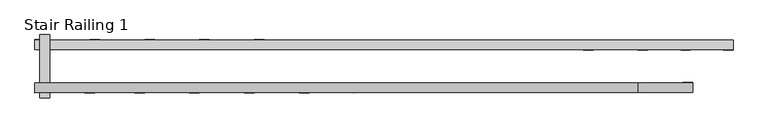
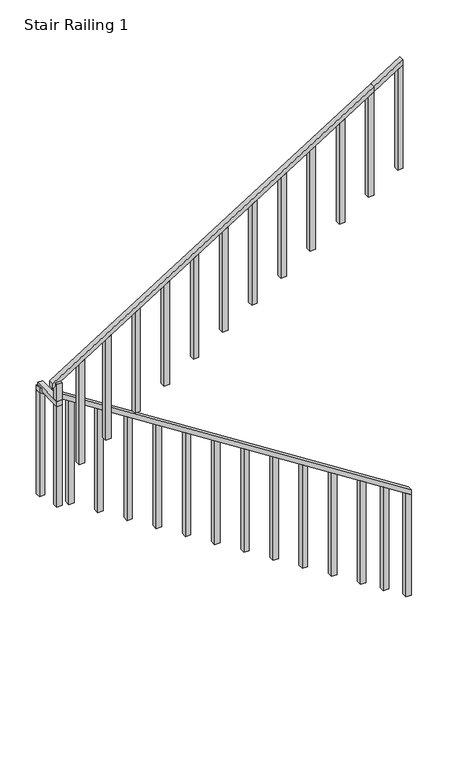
"""IFC4 building model written with IfcOpenShell, lengths in millimetres: railing geometry, Stair Railing 1."""

import ifcopenshell
import ifcopenshell.guid

model = None  # the IFC model being written
_history = None  # IfcOwnerHistory: only IFC2X3 demands one
_inside = {}  # id of a spatial element -> (the spatial element, [elements in it])
_under = {}  # id of a project, library or spatial element -> (it, [spatial elements below it])
_declared = {}  # id of a project -> (the project, [libraries it declares])
_typed = {}  # id of a type object -> (the type object, [elements of that type])
_made_of = {}  # id of a material, layer set ... -> (it, [elements and type objects made of it])


def new_model(schema):
    """Start an empty IFC model of exactly this schema.

    Asked for "IFC4X3", IfcOpenShell would pick the latest addendum, in which some entities
    have other attributes; the version numbers below select the first issue.
    IFC2X3 requires an IfcOwnerHistory on every rooted entity: one is made here for all.
    """
    global model, _history
    if schema == "IFC4X3":
        model = ifcopenshell.file(schema_version=(4, 3, 0, 0))
    else:
        model = ifcopenshell.file(schema=schema)
    _inside.clear()
    _under.clear()
    _declared.clear()
    _typed.clear()
    _made_of.clear()
    _history = None
    if model.schema == "IFC2X3":
        org = make("IfcOrganization", Name="unknown")
        user = make(
            "IfcPersonAndOrganization",
            ThePerson=make("IfcPerson", FamilyName="unknown"),
            TheOrganization=org,
        )
        app = make(
            "IfcApplication",
            ApplicationDeveloper=org,
            Version="unknown",
            ApplicationFullName="unknown",
            ApplicationIdentifier="unknown",
        )
        _history = make(
            "IfcOwnerHistory",
            OwningUser=user,
            OwningApplication=app,
            ChangeAction="ADDED",
            CreationDate=0,
        )
    return model


def make(cls, **values):
    """One entity of the class cls with the attributes given. An attribute that is None is left unset."""
    return model.create_entity(
        cls, **{name: value for name, value in values.items() if value is not None}
    )


def rooted(cls, **values):
    """An entity with a GlobalId (a new one), such as an element, a storey or a relation."""
    return make(cls, GlobalId=ifcopenshell.guid.new(), OwnerHistory=_history, **values)


def si_unit(unit_type, name, prefix=None):
    """IfcSIUnit, for example si_unit("LENGTHUNIT", "METRE", prefix="MILLI")."""
    return make("IfcSIUnit", UnitType=unit_type, Prefix=prefix, Name=name)


def assignment(units):
    """IfcUnitAssignment: the units of a project."""
    return None if units is None else make("IfcUnitAssignment", Units=units)


def point(xyz):
    """IfcCartesianPoint."""
    return None if xyz is None else make("IfcCartesianPoint", Coordinates=xyz)


def direction(xyz):
    """IfcDirection."""
    return None if xyz is None else make("IfcDirection", DirectionRatios=xyz)


def frame(location, z_axis=None, x_axis=None):
    """IfcAxis2Placement3D, a coordinate frame: its origin and axes. An axis left out is left unset."""
    return make(
        "IfcAxis2Placement3D",
        Location=point(location),
        Axis=direction(z_axis),
        RefDirection=direction(x_axis),
    )


def origin():
    """The frame at (0, 0, 0) with its axes left unset."""
    return frame((0.0, 0.0, 0.0))


def place(relative_to, where):
    """IfcLocalPlacement: puts the frame where relative to a parent placement (None: the world)."""
    return make(
        "IfcLocalPlacement", PlacementRelTo=relative_to, RelativePlacement=where
    )


def context(
    kind, dimensions, precision=None, world=None, true_north=None, identifier=None
):
    """IfcGeometricRepresentationContext, for example the 3D "Model" context."""
    return make(
        "IfcGeometricRepresentationContext",
        ContextIdentifier=identifier,
        ContextType=kind,
        CoordinateSpaceDimension=dimensions,
        Precision=precision,
        WorldCoordinateSystem=world,
        TrueNorth=true_north,
    )


def project(units=None, contexts=None):
    """IfcProject with its units and contexts."""
    return rooted(
        "IfcProject",
        Name="project",
        RepresentationContexts=contexts,
        UnitsInContext=assignment(units),
    )


def spatial(cls, under=None, at=None, **own):
    """A site, building, storey or space (cls), placed at a placement, below another one or the project."""
    s = rooted(cls, ObjectPlacement=at, **own)
    if under is not None:
        _under.setdefault(under.id(), (under, []))[1].append(s)
    return s


def polyline(points):
    """IfcPolyline through the points."""
    return make("IfcPolyline", Points=[point(p) for p in points])


def outline(outer, holes=None, kind="AREA"):
    """IfcArbitraryClosedProfileDef: a profile drawn as a closed curve; with holes, ...WithVoids."""
    if holes is None:
        return make("IfcArbitraryClosedProfileDef", ProfileType=kind, OuterCurve=outer)
    return make(
        "IfcArbitraryProfileDefWithVoids",
        ProfileType=kind,
        OuterCurve=outer,
        InnerCurves=holes,
    )


def extrude(swept, where, along, depth):
    """IfcExtrudedAreaSolid: the profile swept, set in the frame where, extruded along a direction by depth."""
    return make(
        "IfcExtrudedAreaSolid",
        SweptArea=swept,
        Position=where,
        ExtrudedDirection=direction(along),
        Depth=depth,
    )


def shape(context_of_items, identifier, shape_type, items):
    """IfcShapeRepresentation: the items that make up one representation, for example the "Body"."""
    return make(
        "IfcShapeRepresentation",
        ContextOfItems=context_of_items,
        RepresentationIdentifier=identifier,
        RepresentationType=shape_type,
        Items=items,
    )


def source(mapping_origin, context_of_items, identifier, shape_type, items):
    """IfcRepresentationMap: a shape defined once, which mapped items show again and again."""
    return make(
        "IfcRepresentationMap",
        MappingOrigin=mapping_origin,
        MappedRepresentation=shape(context_of_items, identifier, shape_type, items),
    )


def transform(
    local_origin,
    x_axis=None,
    y_axis=None,
    z_axis=None,
    scale=None,
    scale2=None,
    scale3=None,
    uniform=True,
):
    """IfcCartesianTransformationOperator3D, or its non-uniform kind. x_axis, y_axis, z_axis: its Axis1, 2, 3."""
    if uniform:
        return make(
            "IfcCartesianTransformationOperator3D",
            Axis1=direction(x_axis),
            Axis2=direction(y_axis),
            LocalOrigin=point(local_origin),
            Scale=scale,
            Axis3=direction(z_axis),
        )
    return make(
        "IfcCartesianTransformationOperator3DnonUniform",
        Axis1=direction(x_axis),
        Axis2=direction(y_axis),
        LocalOrigin=point(local_origin),
        Scale=scale,
        Axis3=direction(z_axis),
        Scale2=scale2,
        Scale3=scale3,
    )


def mapped(mapping_source, mapping_target):
    """IfcMappedItem: shows the shape of a source again, moved by a transform."""
    return make(
        "IfcMappedItem", MappingSource=mapping_source, MappingTarget=mapping_target
    )


def made_of(thing, what):
    """Note that an element or type object is made of a material, layer set ...; save() writes the relation."""
    if what is not None:
        _made_of.setdefault(what.id(), (what, []))[1].append(thing)
    return thing


def element(
    cls,
    number,
    at=None,
    inside=None,
    cuts=None,
    type_object=None,
    material=None,
    context=None,
    identifier="Body",
    shape_type=None,
    held_by="IfcProductDefinitionShape",
    body=None,
    shapes=None,
    **own,
):
    """One element of the class cls, such as IfcWall. Its Tag is "e" and its number.

    at: its placement. inside: the storey or other place that contains it. cuts: it is an
    opening in that element (IfcRelVoidsElement). A single representation is given by context,
    identifier, shape_type and body (its items); several are given by shapes. held_by: the class
    of the entity that holds the representations. save() writes the other relations.
    """
    e = rooted(cls, Tag="e%d" % number, ObjectPlacement=at, **own)
    if body is not None:
        shapes = [shape(context, identifier, shape_type, body)]
    if shapes is not None:
        e.Representation = make(held_by, Representations=shapes)
    if inside is not None:
        _inside.setdefault(inside.id(), (inside, []))[1].append(e)
    if cuts is not None:
        rooted(
            "IfcRelVoidsElement", RelatingBuildingElement=cuts, RelatedOpeningElement=e
        )
    if type_object is not None:
        _typed.setdefault(type_object.id(), (type_object, []))[1].append(e)
    return made_of(e, material)


def aggregate(whole, parts):
    """IfcRelAggregates: a whole, such as a stair, and the parts it consists of."""
    return rooted("IfcRelAggregates", RelatingObject=whole, RelatedObjects=parts)


def save(model, path):
    """Write the relations noted so far, then the file.

    IfcRelAggregates (storeys below a building ...), IfcRelContainedInSpatialStructure (elements
    in a storey), IfcRelDefinesByType, IfcRelAssociatesMaterial and IfcRelDeclares: one each for
    every whole, place, type object, material and project.
    """
    for whole, parts in _under.values():
        aggregate(whole, parts)
    for where, things in _inside.values():
        rooted(
            "IfcRelContainedInSpatialStructure",
            RelatedElements=things,
            RelatingStructure=where,
        )
    for kind, things in _typed.values():
        rooted("IfcRelDefinesByType", RelatedObjects=things, RelatingType=kind)
    for what, things in _made_of.values():
        rooted("IfcRelAssociatesMaterial", RelatedObjects=things, RelatingMaterial=what)
    for by, libraries in _declared.values():
        rooted("IfcRelDeclares", RelatingContext=by, RelatedDefinitions=libraries)
    model.write(path)


def stair_railing_1_86ab4dc6(model_context):
    return source(origin(), model_context, "Body", "SweptSolid", [
        extrude(outline(polyline([(13727.2888889, -65612.3987232), (13676.4888889, -65612.3987232), (11401.7777778, -62053.9245409), (11452.5777778, -62053.9245409), (13727.2888889, -65612.3987232)])), frame((0.0, 32657.381749, 0.0), z_axis=(0.0, 1.0, 0.0), x_axis=(0.0, 0.0, 1.0)), (0.0, 0.0, 1.0), 50.8),
        extrude(outline(polyline([(11434.2510566, -62104.7245409), (10385.7777778, -62104.7245409), (10385.7777778, -62053.9245409), (11401.7777778, -62053.9245409), (11434.2510566, -62104.7245409)])), frame((0.0, 32657.381749, 0.0), z_axis=(0.0, 1.0, 0.0), x_axis=(0.0, 0.0, 1.0)), (0.0, 0.0, 1.0), 50.8),
        extrude(outline(polyline([(11573.0532872, -62321.8616321), (10524.5800084, -62321.8616321), (10524.5800084, -62271.0616321), (11540.5800084, -62271.0616321), (11573.0532872, -62321.8616321)])), frame((0.0, 32657.381749, 0.0), z_axis=(0.0, 1.0, 0.0), x_axis=(0.0, 0.0, 1.0)), (0.0, 0.0, 1.0), 50.8),
        extrude(outline(polyline([(11711.8555178, -62538.9987232), (10663.3822389, -62538.9987232), (10663.3822389, -62488.1987232), (11679.3822389, -62488.1987232), (11711.8555178, -62538.9987232)])), frame((0.0, 32657.381749, 0.0), z_axis=(0.0, 1.0, 0.0), x_axis=(0.0, 0.0, 1.0)), (0.0, 0.0, 1.0), 50.8),
        extrude(outline(polyline([(11890.4585515, -62818.3987232), (10841.9852727, -62818.3987232), (10841.9852727, -62767.5987232), (11857.9852727, -62767.5987232), (11890.4585515, -62818.3987232)])), frame((0.0, 32657.381749, 0.0), z_axis=(0.0, 1.0, 0.0), x_axis=(0.0, 0.0, 1.0)), (0.0, 0.0, 1.0), 50.8),
        extrude(outline(polyline([(12069.0615853, -63097.7987232), (11020.5883064, -63097.7987232), (11020.5883064, -63046.9987232), (12036.5883064, -63046.9987232), (12069.0615853, -63097.7987232)])), frame((0.0, 32657.381749, 0.0), z_axis=(0.0, 1.0, 0.0), x_axis=(0.0, 0.0, 1.0)), (0.0, 0.0, 1.0), 50.8),
        extrude(outline(polyline([(12247.664619, -63377.1987232), (11199.1913401, -63377.1987232), (11199.1913401, -63326.3987232), (12215.1913401, -63326.3987232), (12247.664619, -63377.1987232)])), frame((0.0, 32657.381749, 0.0), z_axis=(0.0, 1.0, 0.0), x_axis=(0.0, 0.0, 1.0)), (0.0, 0.0, 1.0), 50.8),
        extrude(outline(polyline([(12426.2676527, -63656.5987232), (11377.7943739, -63656.5987232), (11377.7943739, -63605.7987232), (12393.7943739, -63605.7987232), (12426.2676527, -63656.5987232)])), frame((0.0, 32657.381749, 0.0), z_axis=(0.0, 1.0, 0.0), x_axis=(0.0, 0.0, 1.0)), (0.0, 0.0, 1.0), 50.8),
        extrude(outline(polyline([(12604.8706865, -63935.9987232), (11556.3974076, -63935.9987232), (11556.3974076, -63885.1987232), (12572.3974076, -63885.1987232), (12604.8706865, -63935.9987232)])), frame((0.0, 32657.381749, 0.0), z_axis=(0.0, 1.0, 0.0), x_axis=(0.0, 0.0, 1.0)), (0.0, 0.0, 1.0), 50.8),
        extrude(outline(polyline([(12783.4737202, -64215.3987232), (11735.0004413, -64215.3987232), (11735.0004413, -64164.5987232), (12751.0004413, -64164.5987232), (12783.4737202, -64215.3987232)])), frame((0.0, 32657.381749, 0.0), z_axis=(0.0, 1.0, 0.0), x_axis=(0.0, 0.0, 1.0)), (0.0, 0.0, 1.0), 50.8),
        extrude(outline(polyline([(12962.0767539, -64494.7987232), (11913.6034751, -64494.7987232), (11913.6034751, -64443.9987232), (12929.6034751, -64443.9987232), (12962.0767539, -64494.7987232)])), frame((0.0, 32657.381749, 0.0), z_axis=(0.0, 1.0, 0.0), x_axis=(0.0, 0.0, 1.0)), (0.0, 0.0, 1.0), 50.8),
        extrude(outline(polyline([(13140.6797877, -64774.1987232), (12092.2065088, -64774.1987232), (12092.2065088, -64723.3987232), (13108.2065088, -64723.3987232), (13140.6797877, -64774.1987232)])), frame((0.0, 32657.381749, 0.0), z_axis=(0.0, 1.0, 0.0), x_axis=(0.0, 0.0, 1.0)), (0.0, 0.0, 1.0), 50.8),
        extrude(outline(polyline([(13319.2828214, -65053.5987232), (12270.8095426, -65053.5987232), (12270.8095426, -65002.7987232), (13286.8095426, -65002.7987232), (13319.2828214, -65053.5987232)])), frame((0.0, 32657.381749, 0.0), z_axis=(0.0, 1.0, 0.0), x_axis=(0.0, 0.0, 1.0)), (0.0, 0.0, 1.0), 50.8),
        extrude(outline(polyline([(13497.8858552, -65332.9987232), (12449.4125763, -65332.9987232), (12449.4125763, -65282.1987232), (13465.4125763, -65282.1987232), (13497.8858552, -65332.9987232)])), frame((0.0, 32657.381749, 0.0), z_axis=(0.0, 1.0, 0.0), x_axis=(0.0, 0.0, 1.0)), (0.0, 0.0, 1.0), 50.8),
        extrude(outline(polyline([(13676.4888889, -65612.3987232), (12628.01561, -65612.3987232), (12628.01561, -65561.5987232), (13644.01561, -65561.5987232), (13676.4888889, -65612.3987232)])), frame((0.0, 32657.381749, 0.0), z_axis=(0.0, 1.0, 0.0), x_axis=(0.0, 0.0, 1.0)), (0.0, 0.0, 1.0), 50.8),
        extrude(outline(polyline([(-65536.1987232, 32412.2982705), (-65586.9987232, 32412.2982705), (-65586.9987232, 32733.581749), (-65536.1987232, 32733.581749), (-65536.1987232, 32412.2982705)])), frame((0.0, 0.0, 13676.4888889), z_axis=(0.0, 0.0, 1.0), x_axis=(1.0, 0.0, 0.0)), (0.0, 0.0, 1.0), 50.8),
        extrude(outline(polyline([(-65586.9987232, 32463.0982705), (-65536.1987232, 32463.0982705), (-65536.1987232, 32412.2982705), (-65586.9987232, 32412.2982705), (-65586.9987232, 32463.0982705)])), frame((0.0, 0.0, 12660.4888889), z_axis=(0.0, 0.0, 1.0), x_axis=(1.0, 0.0, 0.0)), (0.0, 0.0, 1.0), 1241.7777778),
        extrude(outline(polyline([(15776.2222222, -62538.9987232), (15827.0222222, -62538.9987232), (13902.2666667, -65612.3987232), (13851.4666667, -65612.3987232), (15776.2222222, -62538.9987232)])), frame((0.0, 32437.6982705, 0.0), z_axis=(0.0, 1.0, 0.0), x_axis=(0.0, 0.0, 1.0)), (0.0, 0.0, 1.0), 50.8),
        extrude(outline(polyline([(14010.5373737, -65358.3987232), (12994.5373737, -65358.3987232), (12994.5373737, -65307.5987232), (14042.3515152, -65307.5987232), (14010.5373737, -65358.3987232)])), frame((0.0, 32437.6982705, 0.0), z_axis=(0.0, 1.0, 0.0), x_axis=(0.0, 0.0, 1.0)), (0.0, 0.0, 1.0), 50.8),
        extrude(outline(polyline([(14169.6080808, -65104.3987232), (13153.6080808, -65104.3987232), (13153.6080808, -65053.5987232), (14201.4222222, -65053.5987232), (14169.6080808, -65104.3987232)])), frame((0.0, 32437.6982705, 0.0), z_axis=(0.0, 1.0, 0.0), x_axis=(0.0, 0.0, 1.0)), (0.0, 0.0, 1.0), 50.8),
        extrude(outline(polyline([(14344.5858586, -64824.9987232), (13328.5858586, -64824.9987232), (13328.5858586, -64774.1987232), (14376.4, -64774.1987232), (14344.5858586, -64824.9987232)])), frame((0.0, 32437.6982705, 0.0), z_axis=(0.0, 1.0, 0.0), x_axis=(0.0, 0.0, 1.0)), (0.0, 0.0, 1.0), 50.8),
        extrude(outline(polyline([(14519.5636364, -64545.5987232), (13503.5636364, -64545.5987232), (13503.5636364, -64494.7987232), (14551.3777778, -64494.7987232), (14519.5636364, -64545.5987232)])), frame((0.0, 32437.6982705, 0.0), z_axis=(0.0, 1.0, 0.0), x_axis=(0.0, 0.0, 1.0)), (0.0, 0.0, 1.0), 50.8),
        extrude(outline(polyline([(14694.5414141, -64266.1987232), (13678.5414141, -64266.1987232), (13678.5414141, -64215.3987232), (14726.3555556, -64215.3987232), (14694.5414141, -64266.1987232)])), frame((0.0, 32437.6982705, 0.0), z_axis=(0.0, 1.0, 0.0), x_axis=(0.0, 0.0, 1.0)), (0.0, 0.0, 1.0), 50.8),
        extrude(outline(polyline([(14869.5191919, -63986.7987232), (13853.5191919, -63986.7987232), (13853.5191919, -63935.9987232), (14901.3333333, -63935.9987232), (14869.5191919, -63986.7987232)])), frame((0.0, 32437.6982705, 0.0), z_axis=(0.0, 1.0, 0.0), x_axis=(0.0, 0.0, 1.0)), (0.0, 0.0, 1.0), 50.8),
        extrude(outline(polyline([(15044.4969697, -63707.3987232), (14028.4969697, -63707.3987232), (14028.4969697, -63656.5987232), (15076.3111111, -63656.5987232), (15044.4969697, -63707.3987232)])), frame((0.0, 32437.6982705, 0.0), z_axis=(0.0, 1.0, 0.0), x_axis=(0.0, 0.0, 1.0)), (0.0, 0.0, 1.0), 50.8),
        extrude(outline(polyline([(15219.4747475, -63427.9987232), (14203.4747475, -63427.9987232), (14203.4747475, -63377.1987232), (15251.2888889, -63377.1987232), (15219.4747475, -63427.9987232)])), frame((0.0, 32437.6982705, 0.0), z_axis=(0.0, 1.0, 0.0), x_axis=(0.0, 0.0, 1.0)), (0.0, 0.0, 1.0), 50.8),
        extrude(outline(polyline([(15394.4525253, -63148.5987232), (14378.4525253, -63148.5987232), (14378.4525253, -63097.7987232), (15426.2666667, -63097.7987232), (15394.4525253, -63148.5987232)])), frame((0.0, 32437.6982705, 0.0), z_axis=(0.0, 1.0, 0.0), x_axis=(0.0, 0.0, 1.0)), (0.0, 0.0, 1.0), 50.8),
        extrude(outline(polyline([(15569.430303, -62869.1987232), (14553.430303, -62869.1987232), (14553.430303, -62818.3987232), (15601.2444444, -62818.3987232), (15569.430303, -62869.1987232)])), frame((0.0, 32437.6982705, 0.0), z_axis=(0.0, 1.0, 0.0), x_axis=(0.0, 0.0, 1.0)), (0.0, 0.0, 1.0), 50.8),
        extrude(outline(polyline([(15744.4080808, -62589.7987232), (14728.4080808, -62589.7987232), (14728.4080808, -62538.9987232), (15776.2222222, -62538.9987232), (15744.4080808, -62589.7987232)])), frame((0.0, 32437.6982705, 0.0), z_axis=(0.0, 1.0, 0.0), x_axis=(0.0, 0.0, 1.0)), (0.0, 0.0, 1.0), 50.8),
        extrude(outline(polyline([(15951.2, -62259.5987232), (16002.0, -62259.5987232), (15827.0222222, -62538.9987232), (15776.2222222, -62538.9987232), (15951.2, -62259.5987232)])), frame((0.0, 32437.6982705, 0.0), z_axis=(0.0, 1.0, 0.0), x_axis=(0.0, 0.0, 1.0)), (0.0, 0.0, 1.0), 50.8),
        extrude(outline(polyline([(15919.3858586, -62310.3987232), (14903.3858586, -62310.3987232), (14903.3858586, -62259.5987232), (15951.2, -62259.5987232), (15919.3858586, -62310.3987232)])), frame((0.0, 32437.6982705, 0.0), z_axis=(0.0, 1.0, 0.0), x_axis=(0.0, 0.0, 1.0)), (0.0, 0.0, 1.0), 50.8),
    ])


if __name__ == "__main__":
    model = new_model("IFC4")
    model_context = context("Model", 3, world=origin())
    ifc_project = project(units=[si_unit("LENGTHUNIT", "METRE", prefix="MILLI")], contexts=[model_context])
    site = spatial("IfcSite", under=ifc_project)
    building = spatial("IfcBuilding", under=site)
    placement = place(None, origin())
    stair_railing_1_shape = stair_railing_1_86ab4dc6(model_context)
    element("IfcRailing", 1, ObjectType="Stair Railing 1", at=placement, inside=building, context=model_context, shape_type="MappedRepresentation", body=[
        mapped(stair_railing_1_shape, transform((0.0, 0.0, 0.0), x_axis=(1.0, 0.0, 0.0), y_axis=(0.0, 1.0, 0.0), z_axis=(0.0, 0.0, 1.0))),
    ])
    save(model, "model.ifc")
